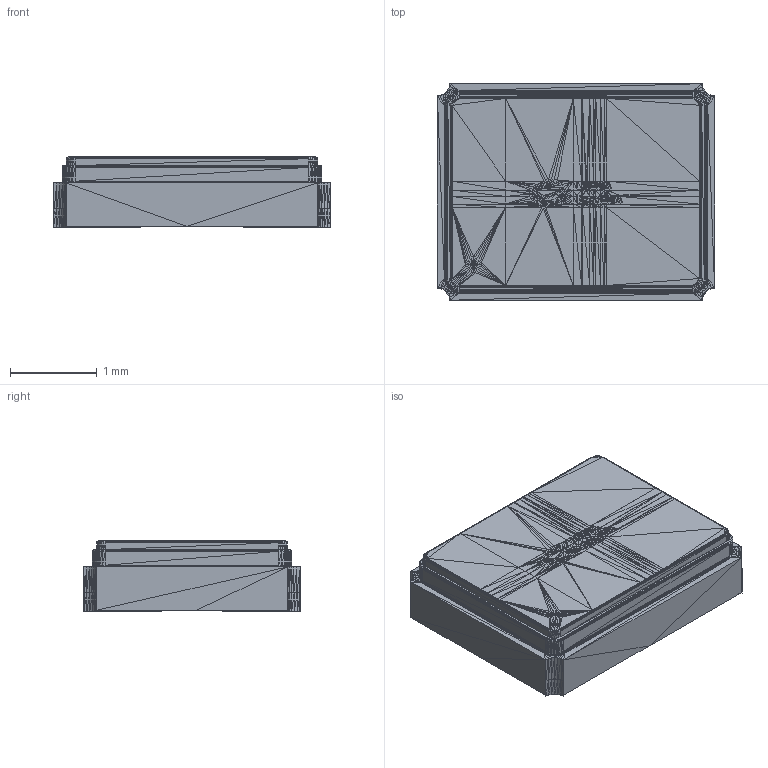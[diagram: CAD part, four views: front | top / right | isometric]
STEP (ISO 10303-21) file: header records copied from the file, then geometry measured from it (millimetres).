
FILE_DESCRIPTION(('auto-generated'),'2;1');
FILE_SCHEMA(('CONFIG_CONTROL_DESIGN'));
Bounding box: 3.2 x 2.5 x 0.81 mm (x, y, z)
Surface area: 24.4 mm2 (no closed solid volume)
Topology: 0 solids, 34 shells, 4626 faces, 7782 edges, 3154 vertices
Faces by surface type: plane 4626
Entity records: 72820 total; most frequent: ORIENTED_EDGE 13878, DIRECTION 9445, LINE 7782, EDGE_CURVE 7782, AXIS2_PLACEMENT_3D 4627, PLANE 4626, EDGE_LOOP 4626, FACE_BOUND 4626
